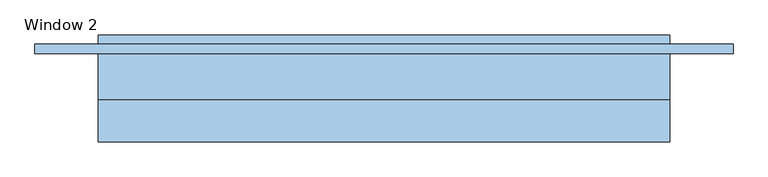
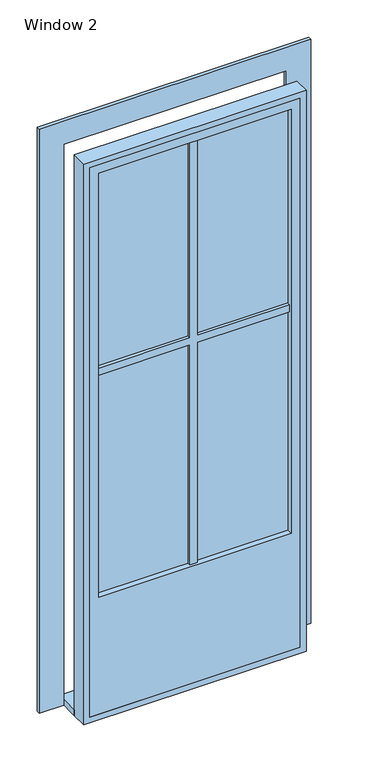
"""IFC4 building model written with IfcOpenShell, lengths in millimetres: window geometry, Window 2 : 900/2400."""

from ifc_helpers import new_model, si_unit, frame, origin, origin_with_axes, place, context, project, spatial, polyline, outline, extrude, source, transform, mapped, element, save


def window_2_c3f3d78e(model_context):
    return source(origin(), model_context, "Body", "SweptSolid", [
        extrude(outline(polyline([(450.0, 26.9623738), (-450.0, 26.9623738), (-450.0, 130.0), (450.0, 130.0), (450.0, 26.9623738)])), origin_with_axes(), (0.0, 0.0, 1.0), 25.0),
        extrude(outline(polyline([(2375.0, -425.0), (25.0, -425.0), (25.0, 425.0), (2375.0, 425.0), (2375.0, -425.0)]), holes=[polyline([(2340.0, -390.0), (2340.0, 390.0), (525.0, 390.0), (525.0, -390.0), (2340.0, -390.0)])]), frame((0.0, -39.0188131, 0.0), z_axis=(0.0, 1.0, 0.0), x_axis=(0.0, 0.0, 1.0)), (0.0, 0.0, 1.0), 50.5),
        extrude(outline(polyline([(0.0, -450.0), (0.0, 450.0), (2400.0, 450.0), (2400.0, -450.0), (0.0, -450.0)]), holes=[polyline([(25.0, -425.0), (2375.0, -425.0), (2375.0, 425.0), (25.0, 425.0), (25.0, -425.0)])]), frame((0.0, -39.0188131, 0.0), z_axis=(0.0, 1.0, 0.0), x_axis=(0.0, 0.0, 1.0)), (0.0, 0.0, 1.0), 65.9811869),
        extrude(outline(polyline([(2400.0, -450.0), (2400.0, 450.0), (0.0, 450.0), (0.0, 550.0), (2500.0, 550.0), (2500.0, -550.0), (0.0, -550.0), (0.0, -450.0), (2400.0, -450.0)])), frame((0.0, 100.0, 0.0), z_axis=(0.0, 1.0, 0.0), x_axis=(0.0, 0.0, 1.0)), (0.0, 0.0, 1.0), 15.0),
        extrude(outline(polyline([(1497.5, 390.0), (1497.5, 15.0), (2340.0, 15.0), (2340.0, -15.0), (1497.5, -15.0), (1497.5, -390.0), (1467.5, -390.0), (1467.5, -15.0), (525.0, -15.0), (525.0, 15.0), (1467.5, 15.0), (1467.5, 390.0), (1497.5, 390.0)])), frame((0.0, -28.5188131, 0.0), z_axis=(0.0, 1.0, 0.0), x_axis=(0.0, 0.0, 1.0)), (0.0, 0.0, 1.0), 20.0),
        extrude(outline(polyline([(390.0, -15.5188131), (-390.0, -15.5188131), (-390.0, -13.5188131), (390.0, -13.5188131), (390.0, -15.5188131)])), frame((0.0, 0.0, 525.0), z_axis=(0.0, 0.0, 1.0), x_axis=(1.0, 0.0, 0.0)), (0.0, 0.0, 1.0), 1815.0),
    ])


if __name__ == "__main__":
    model = new_model("IFC4")
    model_context = context("Model", 3, world=origin())
    ifc_project = project(units=[si_unit("LENGTHUNIT", "METRE", prefix="MILLI")], contexts=[model_context])
    site = spatial("IfcSite", under=ifc_project)
    building = spatial("IfcBuilding", under=site)
    placement = place(None, origin())
    window_2_shape = window_2_c3f3d78e(model_context)
    element("IfcWindow", 1, ObjectType="Window 2 : 900/2400", at=placement, inside=building, context=model_context, shape_type="MappedRepresentation", body=[
        mapped(window_2_shape, transform((0.0, 0.0, 0.0), x_axis=(1.0, 0.0, 0.0), y_axis=(0.0, 1.0, 0.0), z_axis=(0.0, 0.0, 1.0))),
    ])
    save(model, "model.ifc")
